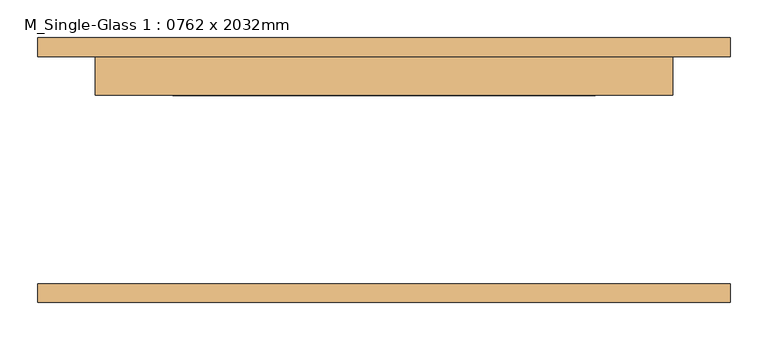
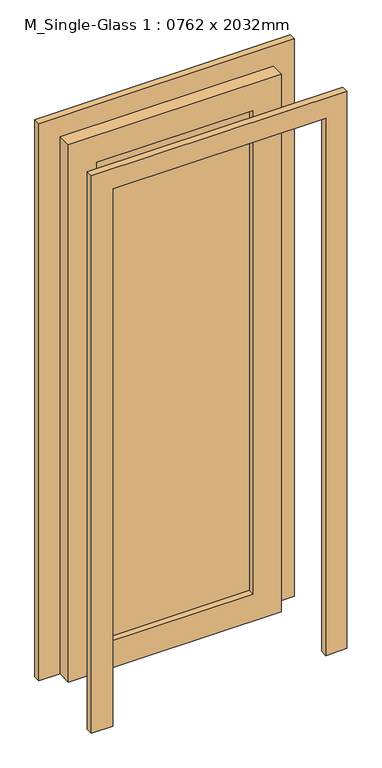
"""IFC4 building model written with IfcOpenShell, lengths in millimetres: door geometry, M_Single-Glass 1 : 0762 x 2032mm."""

import ifcopenshell
import ifcopenshell.guid

model = None  # the IFC model being written
_history = None  # IfcOwnerHistory: only IFC2X3 demands one
_inside = {}  # id of a spatial element -> (the spatial element, [elements in it])
_under = {}  # id of a project, library or spatial element -> (it, [spatial elements below it])
_declared = {}  # id of a project -> (the project, [libraries it declares])
_typed = {}  # id of a type object -> (the type object, [elements of that type])
_made_of = {}  # id of a material, layer set ... -> (it, [elements and type objects made of it])


def new_model(schema):
    """Start an empty IFC model of exactly this schema.

    Asked for "IFC4X3", IfcOpenShell would pick the latest addendum, in which some entities
    have other attributes; the version numbers below select the first issue.
    IFC2X3 requires an IfcOwnerHistory on every rooted entity: one is made here for all.
    """
    global model, _history
    if schema == "IFC4X3":
        model = ifcopenshell.file(schema_version=(4, 3, 0, 0))
    else:
        model = ifcopenshell.file(schema=schema)
    _inside.clear()
    _under.clear()
    _declared.clear()
    _typed.clear()
    _made_of.clear()
    _history = None
    if model.schema == "IFC2X3":
        org = make("IfcOrganization", Name="unknown")
        user = make(
            "IfcPersonAndOrganization",
            ThePerson=make("IfcPerson", FamilyName="unknown"),
            TheOrganization=org,
        )
        app = make(
            "IfcApplication",
            ApplicationDeveloper=org,
            Version="unknown",
            ApplicationFullName="unknown",
            ApplicationIdentifier="unknown",
        )
        _history = make(
            "IfcOwnerHistory",
            OwningUser=user,
            OwningApplication=app,
            ChangeAction="ADDED",
            CreationDate=0,
        )
    return model


def make(cls, **values):
    """One entity of the class cls with the attributes given. An attribute that is None is left unset."""
    return model.create_entity(
        cls, **{name: value for name, value in values.items() if value is not None}
    )


def rooted(cls, **values):
    """An entity with a GlobalId (a new one), such as an element, a storey or a relation."""
    return make(cls, GlobalId=ifcopenshell.guid.new(), OwnerHistory=_history, **values)


def si_unit(unit_type, name, prefix=None):
    """IfcSIUnit, for example si_unit("LENGTHUNIT", "METRE", prefix="MILLI")."""
    return make("IfcSIUnit", UnitType=unit_type, Prefix=prefix, Name=name)


def assignment(units):
    """IfcUnitAssignment: the units of a project."""
    return None if units is None else make("IfcUnitAssignment", Units=units)


def point(xyz):
    """IfcCartesianPoint."""
    return None if xyz is None else make("IfcCartesianPoint", Coordinates=xyz)


def direction(xyz):
    """IfcDirection."""
    return None if xyz is None else make("IfcDirection", DirectionRatios=xyz)


def frame(location, z_axis=None, x_axis=None):
    """IfcAxis2Placement3D, a coordinate frame: its origin and axes. An axis left out is left unset."""
    return make(
        "IfcAxis2Placement3D",
        Location=point(location),
        Axis=direction(z_axis),
        RefDirection=direction(x_axis),
    )


def origin():
    """The frame at (0, 0, 0) with its axes left unset."""
    return frame((0.0, 0.0, 0.0))


def place(relative_to, where):
    """IfcLocalPlacement: puts the frame where relative to a parent placement (None: the world)."""
    return make(
        "IfcLocalPlacement", PlacementRelTo=relative_to, RelativePlacement=where
    )


def context(
    kind, dimensions, precision=None, world=None, true_north=None, identifier=None
):
    """IfcGeometricRepresentationContext, for example the 3D "Model" context."""
    return make(
        "IfcGeometricRepresentationContext",
        ContextIdentifier=identifier,
        ContextType=kind,
        CoordinateSpaceDimension=dimensions,
        Precision=precision,
        WorldCoordinateSystem=world,
        TrueNorth=true_north,
    )


def project(units=None, contexts=None):
    """IfcProject with its units and contexts."""
    return rooted(
        "IfcProject",
        Name="project",
        RepresentationContexts=contexts,
        UnitsInContext=assignment(units),
    )


def spatial(cls, under=None, at=None, **own):
    """A site, building, storey or space (cls), placed at a placement, below another one or the project."""
    s = rooted(cls, ObjectPlacement=at, **own)
    if under is not None:
        _under.setdefault(under.id(), (under, []))[1].append(s)
    return s


def polyline(points):
    """IfcPolyline through the points."""
    return make("IfcPolyline", Points=[point(p) for p in points])


def outline(outer, holes=None, kind="AREA"):
    """IfcArbitraryClosedProfileDef: a profile drawn as a closed curve; with holes, ...WithVoids."""
    if holes is None:
        return make("IfcArbitraryClosedProfileDef", ProfileType=kind, OuterCurve=outer)
    return make(
        "IfcArbitraryProfileDefWithVoids",
        ProfileType=kind,
        OuterCurve=outer,
        InnerCurves=holes,
    )


def extrude(swept, where, along, depth):
    """IfcExtrudedAreaSolid: the profile swept, set in the frame where, extruded along a direction by depth."""
    return make(
        "IfcExtrudedAreaSolid",
        SweptArea=swept,
        Position=where,
        ExtrudedDirection=direction(along),
        Depth=depth,
    )


def shape(context_of_items, identifier, shape_type, items):
    """IfcShapeRepresentation: the items that make up one representation, for example the "Body"."""
    return make(
        "IfcShapeRepresentation",
        ContextOfItems=context_of_items,
        RepresentationIdentifier=identifier,
        RepresentationType=shape_type,
        Items=items,
    )


def source(mapping_origin, context_of_items, identifier, shape_type, items):
    """IfcRepresentationMap: a shape defined once, which mapped items show again and again."""
    return make(
        "IfcRepresentationMap",
        MappingOrigin=mapping_origin,
        MappedRepresentation=shape(context_of_items, identifier, shape_type, items),
    )


def transform(
    local_origin,
    x_axis=None,
    y_axis=None,
    z_axis=None,
    scale=None,
    scale2=None,
    scale3=None,
    uniform=True,
):
    """IfcCartesianTransformationOperator3D, or its non-uniform kind. x_axis, y_axis, z_axis: its Axis1, 2, 3."""
    if uniform:
        return make(
            "IfcCartesianTransformationOperator3D",
            Axis1=direction(x_axis),
            Axis2=direction(y_axis),
            LocalOrigin=point(local_origin),
            Scale=scale,
            Axis3=direction(z_axis),
        )
    return make(
        "IfcCartesianTransformationOperator3DnonUniform",
        Axis1=direction(x_axis),
        Axis2=direction(y_axis),
        LocalOrigin=point(local_origin),
        Scale=scale,
        Axis3=direction(z_axis),
        Scale2=scale2,
        Scale3=scale3,
    )


def mapped(mapping_source, mapping_target):
    """IfcMappedItem: shows the shape of a source again, moved by a transform."""
    return make(
        "IfcMappedItem", MappingSource=mapping_source, MappingTarget=mapping_target
    )


def made_of(thing, what):
    """Note that an element or type object is made of a material, layer set ...; save() writes the relation."""
    if what is not None:
        _made_of.setdefault(what.id(), (what, []))[1].append(thing)
    return thing


def element(
    cls,
    number,
    at=None,
    inside=None,
    cuts=None,
    type_object=None,
    material=None,
    context=None,
    identifier="Body",
    shape_type=None,
    held_by="IfcProductDefinitionShape",
    body=None,
    shapes=None,
    **own,
):
    """One element of the class cls, such as IfcWall. Its Tag is "e" and its number.

    at: its placement. inside: the storey or other place that contains it. cuts: it is an
    opening in that element (IfcRelVoidsElement). A single representation is given by context,
    identifier, shape_type and body (its items); several are given by shapes. held_by: the class
    of the entity that holds the representations. save() writes the other relations.
    """
    e = rooted(cls, Tag="e%d" % number, ObjectPlacement=at, **own)
    if body is not None:
        shapes = [shape(context, identifier, shape_type, body)]
    if shapes is not None:
        e.Representation = make(held_by, Representations=shapes)
    if inside is not None:
        _inside.setdefault(inside.id(), (inside, []))[1].append(e)
    if cuts is not None:
        rooted(
            "IfcRelVoidsElement", RelatingBuildingElement=cuts, RelatedOpeningElement=e
        )
    if type_object is not None:
        _typed.setdefault(type_object.id(), (type_object, []))[1].append(e)
    return made_of(e, material)


def aggregate(whole, parts):
    """IfcRelAggregates: a whole, such as a stair, and the parts it consists of."""
    return rooted("IfcRelAggregates", RelatingObject=whole, RelatedObjects=parts)


def save(model, path):
    """Write the relations noted so far, then the file.

    IfcRelAggregates (storeys below a building ...), IfcRelContainedInSpatialStructure (elements
    in a storey), IfcRelDefinesByType, IfcRelAssociatesMaterial and IfcRelDeclares: one each for
    every whole, place, type object, material and project.
    """
    for whole, parts in _under.values():
        aggregate(whole, parts)
    for where, things in _inside.values():
        rooted(
            "IfcRelContainedInSpatialStructure",
            RelatedElements=things,
            RelatingStructure=where,
        )
    for kind, things in _typed.values():
        rooted("IfcRelDefinesByType", RelatedObjects=things, RelatingType=kind)
    for what, things in _made_of.values():
        rooted("IfcRelAssociatesMaterial", RelatedObjects=things, RelatingMaterial=what)
    for by, libraries in _declared.values():
        rooted("IfcRelDeclares", RelatingContext=by, RelatedDefinitions=libraries)
    model.write(path)


def m_single_glass_1_0762_x_2032mm_4bb71081(model_context):
    return source(origin(), model_context, "Body", "SweptSolid", [
        extrude(outline(polyline([(2032.0, 381.0), (0.0, 381.0), (0.0, 457.0), (2108.0, 457.0), (2108.0, -457.0), (0.0, -457.0), (0.0, -381.0), (2032.0, -381.0), (2032.0, 381.0)])), frame((0.0, -175.0, 0.0), z_axis=(0.0, 1.0, 0.0), x_axis=(0.0, 0.0, 1.0)), (0.0, 0.0, 1.0), 25.0),
        extrude(outline(polyline([(2032.0, 381.0), (0.0, 381.0), (0.0, 457.0), (2108.0, 457.0), (2108.0, -457.0), (0.0, -457.0), (0.0, -381.0), (2032.0, -381.0), (2032.0, 381.0)])), frame((0.0, 150.0, 0.0), z_axis=(0.0, 1.0, 0.0), x_axis=(0.0, 0.0, 1.0)), (0.0, 0.0, 1.0), 25.0),
        extrude(outline(polyline([(279.0, 121.425), (-279.0, 121.425), (-279.0, 127.775), (279.0, 127.775), (279.0, 121.425)])), frame((0.0, 0.0, 102.0), z_axis=(0.0, 0.0, 1.0), x_axis=(1.0, 0.0, 0.0)), (0.0, 0.0, 1.0), 1828.0),
        extrude(outline(polyline([(2032.0, 381.0), (2032.0, -381.0), (0.0, -381.0), (0.0, 381.0), (2032.0, 381.0)]), holes=[polyline([(1930.0, -279.0), (1930.0, 279.0), (102.0, 279.0), (102.0, -279.0), (1930.0, -279.0)])]), frame((0.0, 99.0, 0.0), z_axis=(0.0, 1.0, 0.0), x_axis=(0.0, 0.0, 1.0)), (0.0, 0.0, 1.0), 51.0),
    ])


if __name__ == "__main__":
    model = new_model("IFC4")
    model_context = context("Model", 3, world=origin())
    ifc_project = project(units=[si_unit("LENGTHUNIT", "METRE", prefix="MILLI")], contexts=[model_context])
    site = spatial("IfcSite", under=ifc_project)
    building = spatial("IfcBuilding", under=site)
    placement = place(None, origin())
    m_single_glass_1_0762_x_2032mm_shape = m_single_glass_1_0762_x_2032mm_4bb71081(model_context)
    element("IfcDoor", 1, ObjectType="M_Single-Glass 1 : 0762 x 2032mm", at=placement, inside=building, context=model_context, shape_type="MappedRepresentation", body=[
        mapped(m_single_glass_1_0762_x_2032mm_shape, transform((0.0, 0.0, 0.0), x_axis=(1.0, 0.0, 0.0), y_axis=(0.0, 1.0, 0.0), z_axis=(0.0, 0.0, 1.0))),
    ])
    save(model, "model.ifc")
